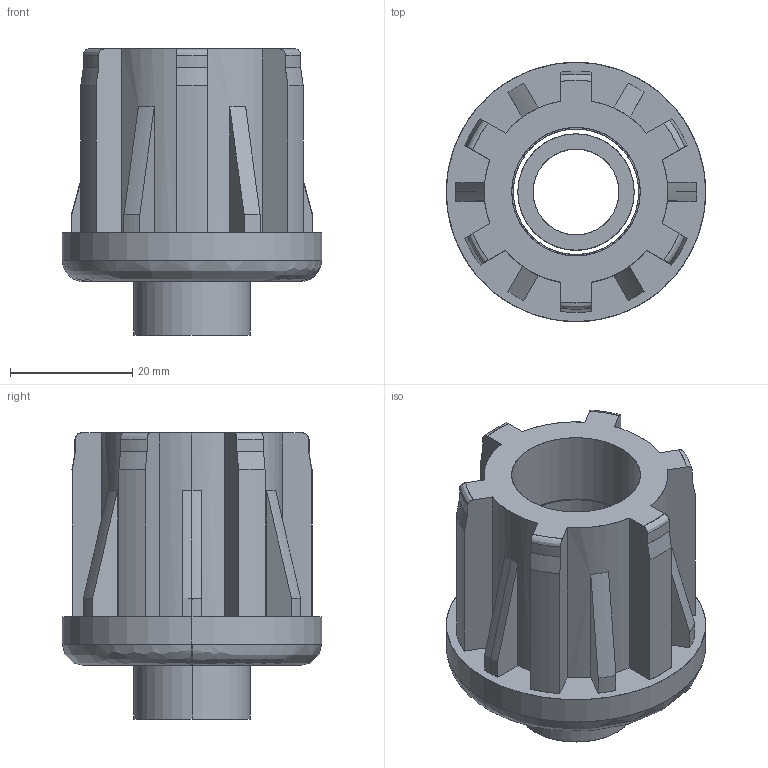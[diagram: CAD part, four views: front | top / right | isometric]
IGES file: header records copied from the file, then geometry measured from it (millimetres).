
Start section: SolidWorks IGES file using analytic representation for surfaces
Global section: file name: Y:\Tecnodin, S.L\PLAPP-Dirección - Documentos\General\Models CAD\Actiby\42006448214.IGS; native system: SolidWorks 2018; preprocessor: SolidWorks 2018; author: GerPro; date: 200225.181305; units: millimetre
Bounding box: 42.4 x 42.4 x 46.75 mm (x, y, z)
Surface area: 12560.2 mm2 (no closed solid volume)
Topology: 0 solids, 0 shells, 97 faces, 1080 edges, 1080 vertices
Faces by surface type: revolution 58, bspline 39
